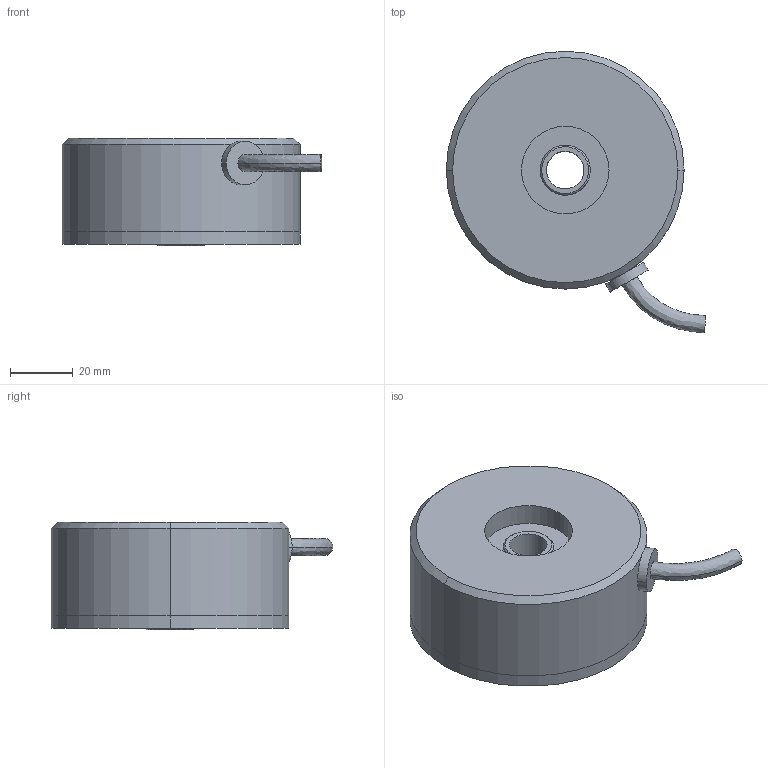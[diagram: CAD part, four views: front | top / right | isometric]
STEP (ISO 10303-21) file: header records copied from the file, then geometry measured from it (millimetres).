
FILE_DESCRIPTION (( 'STEP AP214' ), '1' );
FILE_NAME ('A_Assem1.STEP', '2024-08-21T00:47:21', ( '' ), ( '' ), 'SwSTEP 2.0', 'SolidWorks 2023', '' );
FILE_SCHEMA (( 'AUTOMOTIVE_DESIGN' ));
Length unit declared in the file: millimetre
Products named in the file (4): A_Assem1; A_Part1; A_Part2; A_Part3
Assembly tree (3 placements, depth 2):
  A_Assem1
    A_Part1
    A_Part2
    A_Part3
Bounding box: 82.89 x 89.99 x 34.5 mm (x, y, z)
Volume: 147384.5 mm3; surface area: 31051.3 mm2
Topology: 4 solids, 4 shells, 49 faces, 102 edges, 66 vertices
Faces by surface type: cylinder 28, plane 13, cone 6, bspline 2
Entity records: 1568 total; most frequent: CARTESIAN_POINT 315, DIRECTION 272, ORIENTED_EDGE 204, AXIS2_PLACEMENT_3D 119, EDGE_CURVE 102, VERTEX_POINT 66, EDGE_LOOP 66, CIRCLE 66
